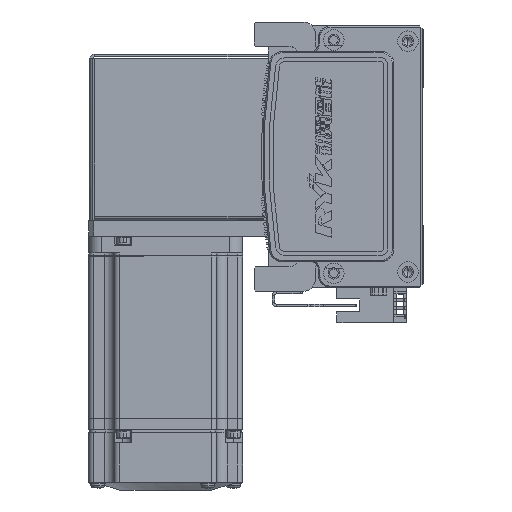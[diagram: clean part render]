
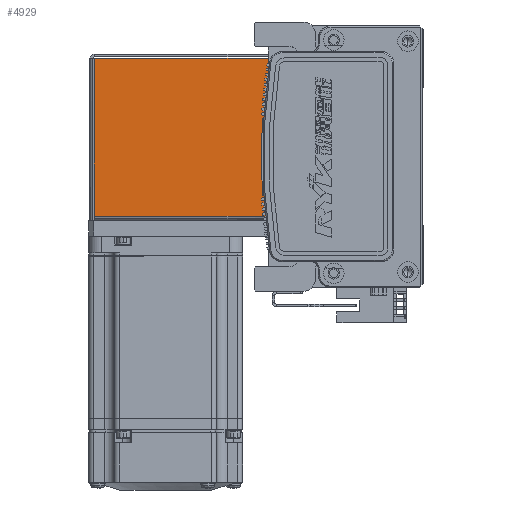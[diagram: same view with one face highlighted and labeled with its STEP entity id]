
A CAD part, left-side view. The second image highlights one B-rep face of the part: STEP entity #4929.
In plain terms, the highlighted planar face has unit normal (-1, 0, 0) as drawn and (0, 0, 1) by its records, which use the part's own axes.
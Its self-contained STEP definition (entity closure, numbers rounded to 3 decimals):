
#429 = CARTESIAN_POINT ( 'NONE',  ( 0., 68.5, 35. ) ) ;
#2489 = DIRECTION ( 'NONE',  ( 0., 1., 0. ) ) ;
#3039 = CARTESIAN_POINT ( 'NONE',  ( 0., 0., 35. ) ) ;
#4929 = ADVANCED_FACE ( 'NONE', ( #16184 ), #26532, .F. ) ;
#8611 = EDGE_LOOP ( 'NONE', ( #24178, #14657, #51182, #42747 ) ) ;
#11806 = CARTESIAN_POINT ( 'NONE',  ( -32.5, 0.737, 35. ) ) ;
#13169 = CARTESIAN_POINT ( 'NONE',  ( -30.793, 0., 35. ) ) ;
#14084 = LINE ( 'NONE', #29933, #17619 ) ;
#14657 = ORIENTED_EDGE ( 'NONE', *, *, #50345, .T. ) ;
#14912 = DIRECTION ( 'NONE',  ( 0., 0., -1. ) ) ;
#15198 = AXIS2_PLACEMENT_3D ( 'NONE', #3039, #14912, #20139 ) ;
#16184 = FACE_OUTER_BOUND ( 'NONE', #8611, .T. ) ;
#17619 = VECTOR ( 'NONE', #2489, 1000. ) ;
#17911 = VERTEX_POINT ( 'NONE', #52304 ) ;
#19463 = DIRECTION ( 'NONE',  ( -1., 0., 0. ) ) ;
#20139 = DIRECTION ( 'NONE',  ( -1., 0., 0. ) ) ;
#20648 = VERTEX_POINT ( 'NONE', #66437 ) ;
#24178 = ORIENTED_EDGE ( 'NONE', *, *, #51438, .T. ) ;
#25709 = VECTOR ( 'NONE', #19463, 1000. ) ;
#26532 = PLANE ( 'NONE',  #15198 ) ;
#29933 = CARTESIAN_POINT ( 'NONE',  ( 30.763, 0.737, 35. ) ) ;
#30474 = DIRECTION ( 'NONE',  ( 0., 1., 0. ) ) ;
#32500 = EDGE_CURVE ( 'NONE', #49862, #51768, #52499, .T. ) ;
#40057 = VECTOR ( 'NONE', #30474, 1000. ) ;
#41827 = CARTESIAN_POINT ( 'NONE',  ( -30.793, 0.737, 35. ) ) ;
#42747 = ORIENTED_EDGE ( 'NONE', *, *, #61674, .F. ) ;
#49862 = VERTEX_POINT ( 'NONE', #41827 ) ;
#50345 = EDGE_CURVE ( 'NONE', #17911, #51768, #55878, .T. ) ;
#50853 = VECTOR ( 'NONE', #69064, 1000. ) ;
#51182 = ORIENTED_EDGE ( 'NONE', *, *, #32500, .F. ) ;
#51438 = EDGE_CURVE ( 'NONE', #20648, #17911, #14084, .T. ) ;
#51768 = VERTEX_POINT ( 'NONE', #55705 ) ;
#52304 = CARTESIAN_POINT ( 'NONE',  ( 30.763, 68.5, 35. ) ) ;
#52499 = LINE ( 'NONE', #13169, #40057 ) ;
#55705 = CARTESIAN_POINT ( 'NONE',  ( -30.793, 68.5, 35. ) ) ;
#55878 = LINE ( 'NONE', #429, #25709 ) ;
#61674 = EDGE_CURVE ( 'NONE', #20648, #49862, #71300, .T. ) ;
#66437 = CARTESIAN_POINT ( 'NONE',  ( 30.763, 0.737, 35. ) ) ;
#69064 = DIRECTION ( 'NONE',  ( -1., 0., 0. ) ) ;
#71300 = LINE ( 'NONE', #11806, #50853 ) ;
